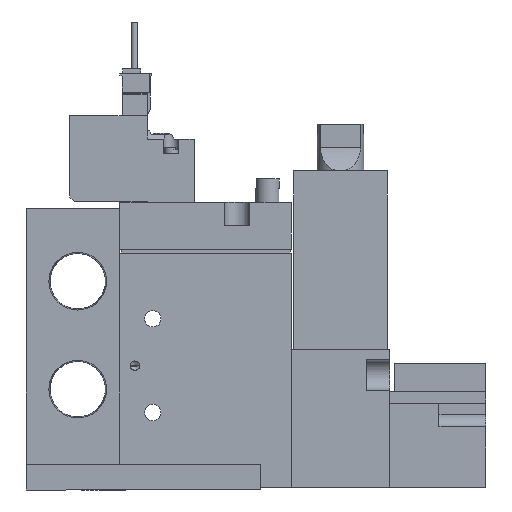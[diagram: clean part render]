
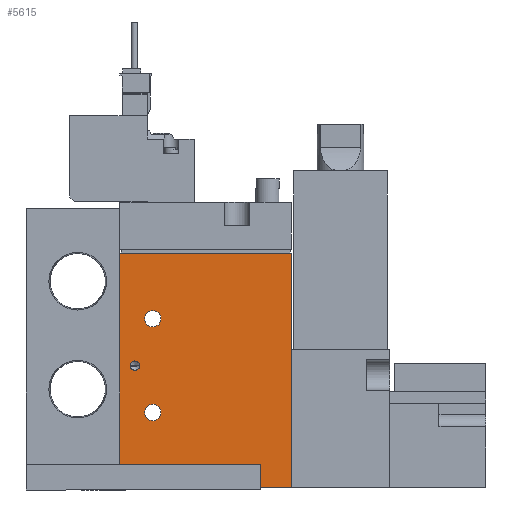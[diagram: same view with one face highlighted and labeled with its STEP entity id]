
A CAD part, left-side view. The second image highlights one B-rep face of the part: STEP entity #5615.
In plain terms, the highlighted planar face has unit normal (-1, 0, 0) as drawn and (1, 0, 0) by its records, which use the part's own axes.
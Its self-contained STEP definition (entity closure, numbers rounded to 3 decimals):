
#5615=ADVANCED_FACE('',(#8718,#8719,#8720,#8721),#8722,.F.);
#8718=FACE_BOUND('',#14225,.T.);
#8719=FACE_BOUND('',#14226,.T.);
#8720=FACE_BOUND('',#14227,.T.);
#8721=FACE_OUTER_BOUND('',#14228,.T.);
#8722=PLANE('',#14229);
#14225=EDGE_LOOP('',(#22072));
#14226=EDGE_LOOP('',(#22073));
#14227=EDGE_LOOP('',(#22074));
#14228=EDGE_LOOP('',(#22075,#22076,#22077,#22078));
#14229=AXIS2_PLACEMENT_3D('',#22079,#22080,#22081);
#22072=ORIENTED_EDGE('',*,*,#38779,.F.);
#22073=ORIENTED_EDGE('',*,*,#38781,.T.);
#22074=ORIENTED_EDGE('',*,*,#38782,.T.);
#22075=ORIENTED_EDGE('',*,*,#38772,.T.);
#22076=ORIENTED_EDGE('',*,*,#38769,.F.);
#22077=ORIENTED_EDGE('',*,*,#38773,.F.);
#22078=ORIENTED_EDGE('',*,*,#38765,.T.);
#22079=CARTESIAN_POINT('',(8.5,-19.444,50.0));
#22080=DIRECTION('',(-1.0,0.0,0.0));
#22081=DIRECTION('',(0.0,0.0,1.0));
#38765=EDGE_CURVE('',#45433,#45431,#45434,.T.);
#38769=EDGE_CURVE('',#45438,#45436,#45440,.T.);
#38772=EDGE_CURVE('',#45431,#45436,#45445,.T.);
#38773=EDGE_CURVE('',#45433,#45438,#45446,.T.);
#38779=EDGE_CURVE('',#45455,#45455,#45456,.T.);
#38781=EDGE_CURVE('',#45457,#45457,#45458,.T.);
#38782=EDGE_CURVE('',#45459,#45459,#45460,.T.);
#45431=VERTEX_POINT('',#56664);
#45433=VERTEX_POINT('',#56667);
#45434=LINE('',#56668,#56669);
#45436=VERTEX_POINT('',#56672);
#45438=VERTEX_POINT('',#56675);
#45440=LINE('',#56678,#56679);
#45445=LINE('',#56684,#56685);
#45446=LINE('',#56686,#56687);
#45455=VERTEX_POINT('',#56696);
#45456=CIRCLE('',#56697,1.0);
#45457=VERTEX_POINT('',#56698);
#45458=CIRCLE('',#56699,1.75);
#45459=VERTEX_POINT('',#56700);
#45460=CIRCLE('',#56701,1.75);
#56664=CARTESIAN_POINT('',(8.5,-19.444,0.0));
#56667=CARTESIAN_POINT('',(8.5,-19.444,50.0));
#56668=CARTESIAN_POINT('',(8.5,-19.444,50.0));
#56669=VECTOR('',#70578,1.0);
#56672=CARTESIAN_POINT('',(8.5,17.056,0.0));
#56675=CARTESIAN_POINT('',(8.5,17.056,50.0));
#56678=CARTESIAN_POINT('',(8.5,17.056,50.0));
#56679=VECTOR('',#70582,1.0);
#56684=CARTESIAN_POINT('',(8.5,-19.444,0.0));
#56685=VECTOR('',#70589,1.0);
#56686=CARTESIAN_POINT('',(8.5,-19.444,50.0));
#56687=VECTOR('',#70590,1.0);
#56696=CARTESIAN_POINT('',(8.5,-17.244,26.0));
#56697=AXIS2_PLACEMENT_3D('',#70603,#70604,#70605);
#56698=CARTESIAN_POINT('',(8.5,-10.694,36.0));
#56699=AXIS2_PLACEMENT_3D('',#70606,#70607,#70608);
#56700=CARTESIAN_POINT('',(8.5,-10.694,16.0));
#56701=AXIS2_PLACEMENT_3D('',#70609,#70610,#70611);
#70578=DIRECTION('',(0.0,0.0,-1.0));
#70582=DIRECTION('',(0.0,0.0,-1.0));
#70589=DIRECTION('',(0.0,1.0,0.0));
#70590=DIRECTION('',(0.0,1.0,0.0));
#70603=CARTESIAN_POINT('',(8.5,-16.244,26.0));
#70604=DIRECTION('',(1.0,0.,0.0));
#70605=DIRECTION('',(0.,-1.0,0.0));
#70606=CARTESIAN_POINT('',(8.5,-12.444,36.0));
#70607=DIRECTION('',(-1.0,0.0,0.0));
#70608=DIRECTION('',(0.0,1.0,0.0));
#70609=CARTESIAN_POINT('',(8.5,-12.444,16.0));
#70610=DIRECTION('',(-1.0,0.0,0.0));
#70611=DIRECTION('',(0.0,1.0,0.0));
